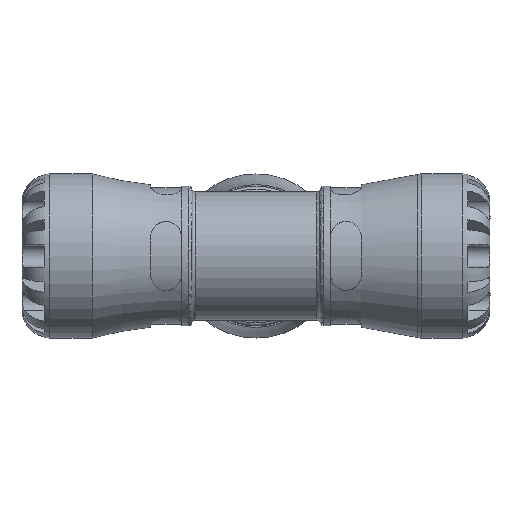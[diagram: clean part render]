
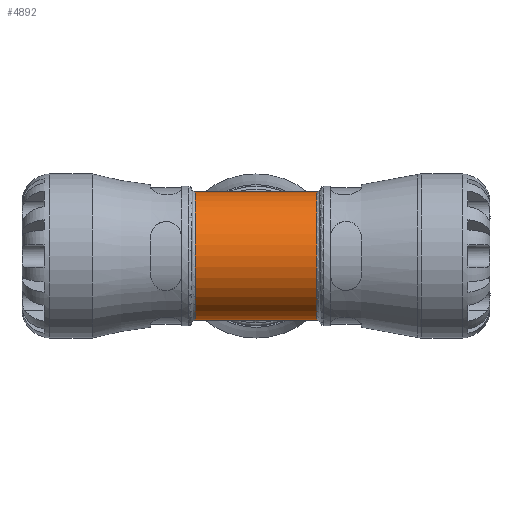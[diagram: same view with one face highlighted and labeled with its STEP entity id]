
A CAD part, front view. The second image highlights one B-rep face of the part: STEP entity #4892.
In plain terms, the highlighted cylindrical face has radius 18.33 mm (diameter 36.66 mm), a partial arc.
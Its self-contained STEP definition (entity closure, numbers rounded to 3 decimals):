
#921=CYLINDRICAL_SURFACE('',#5344,18.33);
#1404=FACE_OUTER_BOUND('',#1720,.T.);
#1720=EDGE_LOOP('',(#4120,#4121,#4122,#4123,#4124,#4125));
#1865=ELLIPSE('',#5016,26.257,18.33);
#1868=ELLIPSE('',#5021,26.257,18.33);
#1870=ELLIPSE('',#5025,26.257,18.33);
#1871=ELLIPSE('',#5027,26.257,18.33);
#1887=CIRCLE('',#5038,18.33);
#1969=CIRCLE('',#5218,18.33);
#2130=VERTEX_POINT('',#6939);
#2131=VERTEX_POINT('',#6941);
#2134=VERTEX_POINT('',#7067);
#2138=VERTEX_POINT('',#7213);
#2140=VERTEX_POINT('',#7216);
#2142=VERTEX_POINT('',#7250);
#2584=EDGE_CURVE('',#2130,#2131,#1865,.T.);
#2591=EDGE_CURVE('',#2131,#2134,#1868,.T.);
#2597=EDGE_CURVE('',#2140,#2138,#1870,.T.);
#2599=EDGE_CURVE('',#2142,#2140,#1871,.T.);
#2615=EDGE_CURVE('',#2138,#2130,#1887,.T.);
#2843=EDGE_CURVE('',#2134,#2142,#1969,.T.);
#4120=ORIENTED_EDGE('',*,*,#2584,.F.);
#4121=ORIENTED_EDGE('',*,*,#2615,.F.);
#4122=ORIENTED_EDGE('',*,*,#2597,.F.);
#4123=ORIENTED_EDGE('',*,*,#2599,.F.);
#4124=ORIENTED_EDGE('',*,*,#2843,.F.);
#4125=ORIENTED_EDGE('',*,*,#2591,.F.);
#4892=ADVANCED_FACE('',(#1404),#921,.T.);
#5016=AXIS2_PLACEMENT_3D('',#6942,#5569,#5570);
#5021=AXIS2_PLACEMENT_3D('',#7071,#5579,#5580);
#5025=AXIS2_PLACEMENT_3D('',#7218,#5587,#5588);
#5027=AXIS2_PLACEMENT_3D('',#7252,#5591,#5592);
#5038=AXIS2_PLACEMENT_3D('',#7611,#5613,#5614);
#5218=AXIS2_PLACEMENT_3D('',#9026,#6053,#6054);
#5344=AXIS2_PLACEMENT_3D('',#10013,#6369,#6370);
#5569=DIRECTION('center_axis',(-0.698,0.716,0.));
#5570=DIRECTION('ref_axis',(0.716,0.698,0.));
#5579=DIRECTION('center_axis',(0.698,0.716,0.));
#5580=DIRECTION('ref_axis',(-0.716,0.698,0.));
#5587=DIRECTION('center_axis',(-0.698,0.716,0.));
#5588=DIRECTION('ref_axis',(0.716,0.698,0.));
#5591=DIRECTION('center_axis',(0.698,0.716,0.));
#5592=DIRECTION('ref_axis',(-0.716,0.698,0.));
#5613=DIRECTION('center_axis',(1.,0.,0.));
#5614=DIRECTION('ref_axis',(0.,1.,0.));
#6053=DIRECTION('center_axis',(-1.,0.,0.));
#6054=DIRECTION('ref_axis',(0.,1.,0.));
#6369=DIRECTION('center_axis',(1.,0.,0.));
#6370=DIRECTION('ref_axis',(0.,1.,0.));
#6939=CARTESIAN_POINT('',(17.405,16.97,-6.93));
#6941=CARTESIAN_POINT('',(0.,0.,-18.33));
#6942=CARTESIAN_POINT('Origin',(0.,0.,0.));
#7067=CARTESIAN_POINT('',(-17.405,16.97,-6.93));
#7071=CARTESIAN_POINT('Origin',(0.,0.,0.));
#7213=CARTESIAN_POINT('',(17.405,16.97,6.93));
#7216=CARTESIAN_POINT('',(0.,0.,18.33));
#7218=CARTESIAN_POINT('Origin',(0.,0.,0.));
#7250=CARTESIAN_POINT('',(-17.405,16.97,6.93));
#7252=CARTESIAN_POINT('Origin',(0.,0.,0.));
#7611=CARTESIAN_POINT('Origin',(17.405,0.,0.));
#9026=CARTESIAN_POINT('Origin',(-17.405,0.,0.));
#10013=CARTESIAN_POINT('Origin',(9.165,0.,0.));
